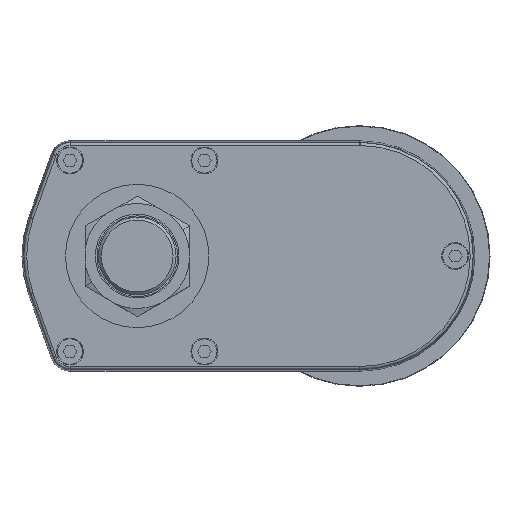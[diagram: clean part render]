
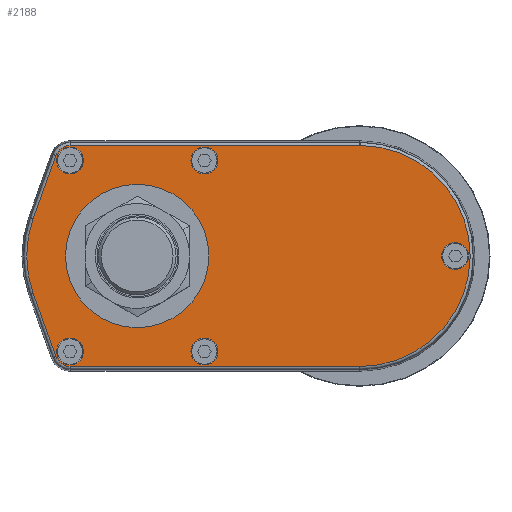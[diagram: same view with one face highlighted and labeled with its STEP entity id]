
A CAD part, left-side view. The second image highlights one B-rep face of the part: STEP entity #2188.
In plain terms, the highlighted planar face has unit normal (-1, 0, 0).
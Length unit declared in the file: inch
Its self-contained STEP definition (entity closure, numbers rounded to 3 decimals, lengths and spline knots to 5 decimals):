
#2188=ADVANCED_FACE('',(#4829,#4830,#4831,#4832,#4833,#4834,#4835),#4836,.F.);
#4829=FACE_OUTER_BOUND('',#10041,.T.);
#4830=FACE_BOUND('',#10042,.T.);
#4831=FACE_BOUND('',#10043,.T.);
#4832=FACE_BOUND('',#10044,.T.);
#4833=FACE_BOUND('',#10045,.T.);
#4834=FACE_BOUND('',#10046,.T.);
#4835=FACE_BOUND('',#10047,.T.);
#4836=PLANE('',#10048);
#10041=EDGE_LOOP('',(#18175,#18176,#18177,#18178,#18179,#18180,#18181,#18182,#18183));
#10042=EDGE_LOOP('',(#18184,#18185));
#10043=EDGE_LOOP('',(#18186,#18187));
#10044=EDGE_LOOP('',(#18188,#18189));
#10045=EDGE_LOOP('',(#18190,#18191));
#10046=EDGE_LOOP('',(#18192,#18193));
#10047=EDGE_LOOP('',(#18194,#18195));
#10048=AXIS2_PLACEMENT_3D('',#18196,#18197,#18198);
#18175=ORIENTED_EDGE('',*,*,#25063,.T.);
#18176=ORIENTED_EDGE('',*,*,#24313,.T.);
#18177=ORIENTED_EDGE('',*,*,#25064,.T.);
#18178=ORIENTED_EDGE('',*,*,#23312,.T.);
#18179=ORIENTED_EDGE('',*,*,#25065,.T.);
#18180=ORIENTED_EDGE('',*,*,#24423,.T.);
#18181=ORIENTED_EDGE('',*,*,#24407,.T.);
#18182=ORIENTED_EDGE('',*,*,#23467,.T.);
#18183=ORIENTED_EDGE('',*,*,#24652,.T.);
#18184=ORIENTED_EDGE('',*,*,#23687,.F.);
#18185=ORIENTED_EDGE('',*,*,#25066,.F.);
#18186=ORIENTED_EDGE('',*,*,#25067,.F.);
#18187=ORIENTED_EDGE('',*,*,#24796,.F.);
#18188=ORIENTED_EDGE('',*,*,#25068,.F.);
#18189=ORIENTED_EDGE('',*,*,#22929,.F.);
#18190=ORIENTED_EDGE('',*,*,#25069,.F.);
#18191=ORIENTED_EDGE('',*,*,#24231,.F.);
#18192=ORIENTED_EDGE('',*,*,#24611,.F.);
#18193=ORIENTED_EDGE('',*,*,#22963,.F.);
#18194=ORIENTED_EDGE('',*,*,#25070,.F.);
#18195=ORIENTED_EDGE('',*,*,#23008,.F.);
#18196=CARTESIAN_POINT('',(-2.27953,0.0,0.0));
#18197=DIRECTION('',(1.0,0.0,0.0));
#18198=DIRECTION('',(0.0,1.0,-0.0));
#22929=EDGE_CURVE('',#26467,#26462,#26469,.T.);
#22963=EDGE_CURVE('',#26527,#26522,#26529,.T.);
#23008=EDGE_CURVE('',#26606,#26601,#26608,.T.);
#23312=EDGE_CURVE('',#27143,#27148,#27150,.T.);
#23467=EDGE_CURVE('',#27405,#27410,#27412,.T.);
#23687=EDGE_CURVE('',#27784,#27779,#27786,.T.);
#24231=EDGE_CURVE('',#28658,#28653,#28660,.T.);
#24313=EDGE_CURVE('',#28780,#28785,#28787,.T.);
#24407=EDGE_CURVE('',#28925,#27405,#28928,.T.);
#24423=EDGE_CURVE('',#28949,#28925,#28950,.T.);
#24611=EDGE_CURVE('',#26522,#26527,#29227,.T.);
#24652=EDGE_CURVE('',#27410,#29284,#29286,.T.);
#24796=EDGE_CURVE('',#29488,#29483,#29490,.T.);
#25063=EDGE_CURVE('',#29284,#28780,#29859,.T.);
#25064=EDGE_CURVE('',#28785,#27143,#29860,.T.);
#25065=EDGE_CURVE('',#27148,#28949,#29861,.T.);
#25066=EDGE_CURVE('',#27779,#27784,#29862,.T.);
#25067=EDGE_CURVE('',#29483,#29488,#29863,.T.);
#25068=EDGE_CURVE('',#26462,#26467,#29864,.T.);
#25069=EDGE_CURVE('',#28653,#28658,#29865,.T.);
#25070=EDGE_CURVE('',#26601,#26606,#29866,.T.);
#26462=VERTEX_POINT('',#31503);
#26467=VERTEX_POINT('',#31509);
#26469=CIRCLE('',#31512,0.17717);
#26522=VERTEX_POINT('',#31601);
#26527=VERTEX_POINT('',#31607);
#26529=CIRCLE('',#31610,0.17717);
#26601=VERTEX_POINT('',#31766);
#26606=VERTEX_POINT('',#31772);
#26608=CIRCLE('',#31775,0.17717);
#27143=VERTEX_POINT('',#32601);
#27148=VERTEX_POINT('',#32606);
#27150=CIRCLE('',#32608,0.19753);
#27405=VERTEX_POINT('',#33012);
#27410=VERTEX_POINT('',#33018);
#27412=LINE('',#33020,#33021);
#27779=VERTEX_POINT('',#33675);
#27784=VERTEX_POINT('',#33681);
#27786=CIRCLE('',#33684,0.94488);
#28653=VERTEX_POINT('',#35374);
#28658=VERTEX_POINT('',#35380);
#28660=CIRCLE('',#35383,0.17717);
#28780=VERTEX_POINT('',#35532);
#28785=VERTEX_POINT('',#35537);
#28787=CIRCLE('',#35539,1.45737);
#28925=VERTEX_POINT('',#35800);
#28928=CIRCLE('',#35803,1.45737);
#28949=VERTEX_POINT('',#35827);
#28950=CIRCLE('',#35828,1.45737);
#29227=CIRCLE('',#36452,0.17717);
#29284=VERTEX_POINT('',#36543);
#29286=CIRCLE('',#36545,0.19753);
#29483=VERTEX_POINT('',#36868);
#29488=VERTEX_POINT('',#36874);
#29490=CIRCLE('',#36877,0.17717);
#29859=LINE('',#37570,#37571);
#29860=LINE('',#37572,#37573);
#29861=LINE('',#37574,#37575);
#29862=CIRCLE('',#37576,0.94488);
#29863=CIRCLE('',#37577,0.17717);
#29864=CIRCLE('',#37578,0.17717);
#29865=CIRCLE('',#37579,0.17717);
#29866=CIRCLE('',#37580,0.17717);
#31503=CARTESIAN_POINT('',(-2.27953,-0.88583,1.08268));
#31509=CARTESIAN_POINT('',(-2.27953,-0.88583,1.43701));
#31512=AXIS2_PLACEMENT_3D('',#40126,#40127,#40128);
#31601=CARTESIAN_POINT('',(-2.27953,0.88583,-1.43701));
#31607=CARTESIAN_POINT('',(-2.27953,0.88583,-1.08268));
#31610=AXIS2_PLACEMENT_3D('',#40167,#40168,#40169);
#31766=CARTESIAN_POINT('',(-2.27953,-4.19291,-0.17717));
#31772=CARTESIAN_POINT('',(-2.27953,-4.19291,0.17717));
#31775=AXIS2_PLACEMENT_3D('',#40215,#40216,#40217);
#32601=CARTESIAN_POINT('',(-2.27953,1.07171,-1.32668));
#32606=CARTESIAN_POINT('',(-2.27953,0.88583,-1.45737));
#32608=AXIS2_PLACEMENT_3D('',#40600,#40601,#40602);
#33012=CARTESIAN_POINT('',(-2.27953,-2.93307,1.45737));
#33018=CARTESIAN_POINT('',(-2.27953,0.88583,1.45737));
#33020=CARTESIAN_POINT('',(-2.27953,-2.93307,1.45737));
#33021=VECTOR('',#40804,3.8189);
#33675=CARTESIAN_POINT('',(-2.27953,0.0,0.94488));
#33681=CARTESIAN_POINT('',(-2.27953,0.0,-0.94488));
#33684=AXIS2_PLACEMENT_3D('',#41131,#41132,#41133);
#35374=CARTESIAN_POINT('',(-2.27953,-0.88583,-1.43701));
#35380=CARTESIAN_POINT('',(-2.27953,-0.88583,-1.08268));
#35383=AXIS2_PLACEMENT_3D('',#41753,#41754,#41755);
#35532=CARTESIAN_POINT('',(-2.27953,1.37142,0.49309));
#35537=CARTESIAN_POINT('',(-2.27953,1.37142,-0.49309));
#35539=AXIS2_PLACEMENT_3D('',#41881,#41882,#41883);
#35800=CARTESIAN_POINT('',(-2.27953,-2.94857,1.45729));
#35803=AXIS2_PLACEMENT_3D('',#41994,#41995,#41996);
#35827=CARTESIAN_POINT('',(-2.27953,-2.93307,-1.45737));
#35828=AXIS2_PLACEMENT_3D('',#42018,#42019,#42020);
#36452=AXIS2_PLACEMENT_3D('',#42210,#42211,#42212);
#36543=CARTESIAN_POINT('',(-2.27953,1.07171,1.32668));
#36545=AXIS2_PLACEMENT_3D('',#42260,#42261,#42262);
#36868=CARTESIAN_POINT('',(-2.27953,0.88583,1.08268));
#36874=CARTESIAN_POINT('',(-2.27953,0.88583,1.43701));
#36877=AXIS2_PLACEMENT_3D('',#42456,#42457,#42458);
#37570=CARTESIAN_POINT('',(-2.27953,1.07171,1.32668));
#37571=VECTOR('',#42754,0.88583);
#37572=CARTESIAN_POINT('',(-2.27953,1.37142,-0.49309));
#37573=VECTOR('',#42755,0.88583);
#37574=CARTESIAN_POINT('',(-2.27953,0.88583,-1.45737));
#37575=VECTOR('',#42756,3.8189);
#37576=AXIS2_PLACEMENT_3D('',#42757,#42758,#42759);
#37577=AXIS2_PLACEMENT_3D('',#42760,#42761,#42762);
#37578=AXIS2_PLACEMENT_3D('',#42763,#42764,#42765);
#37579=AXIS2_PLACEMENT_3D('',#42766,#42767,#42768);
#37580=AXIS2_PLACEMENT_3D('',#42769,#42770,#42771);
#40126=CARTESIAN_POINT('',(-2.27953,-0.88583,1.25984));
#40127=DIRECTION('',(-1.0,0.0,0.0));
#40128=DIRECTION('',(0.0,0.0,1.0));
#40167=CARTESIAN_POINT('',(-2.27953,0.88583,-1.25984));
#40168=DIRECTION('',(-1.0,0.0,0.0));
#40169=DIRECTION('',(0.0,0.0,1.0));
#40215=CARTESIAN_POINT('',(-2.27953,-4.19291,0.0));
#40216=DIRECTION('',(-1.0,0.0,0.0));
#40217=DIRECTION('',(0.0,0.0,1.0));
#40600=CARTESIAN_POINT('',(-2.27953,0.88583,-1.25984));
#40601=DIRECTION('',(-1.0,0.0,0.0));
#40602=DIRECTION('',(0.0,0.941,-0.338));
#40804=DIRECTION('',(0.0,1.0,0.0));
#41131=CARTESIAN_POINT('',(-2.27953,0.0,0.0));
#41132=DIRECTION('',(-1.0,0.0,0.0));
#41133=DIRECTION('',(0.0,0.0,-1.0));
#41753=CARTESIAN_POINT('',(-2.27953,-0.88583,-1.25984));
#41754=DIRECTION('',(-1.0,0.0,0.0));
#41755=DIRECTION('',(0.0,0.0,1.0));
#41881=CARTESIAN_POINT('',(-2.27953,0.0,0.0));
#41882=DIRECTION('',(-1.0,0.0,0.0));
#41883=DIRECTION('',(0.0,0.941,0.338));
#41994=CARTESIAN_POINT('',(-2.27953,-2.93307,0.0));
#41995=DIRECTION('',(-1.0,0.0,0.0));
#41996=DIRECTION('',(0.0,0.0,-1.0));
#42018=CARTESIAN_POINT('',(-2.27953,-2.93307,0.0));
#42019=DIRECTION('',(-1.0,0.0,0.0));
#42020=DIRECTION('',(0.0,0.0,-1.0));
#42210=CARTESIAN_POINT('',(-2.27953,0.88583,-1.25984));
#42211=DIRECTION('',(-1.0,0.0,0.0));
#42212=DIRECTION('',(0.0,0.0,-1.0));
#42260=CARTESIAN_POINT('',(-2.27953,0.88583,1.25984));
#42261=DIRECTION('',(-1.0,0.0,0.0));
#42262=DIRECTION('',(0.0,0.0,1.0));
#42456=CARTESIAN_POINT('',(-2.27953,0.88583,1.25984));
#42457=DIRECTION('',(-1.0,0.0,0.0));
#42458=DIRECTION('',(0.0,0.0,1.0));
#42754=DIRECTION('',(0.0,0.338,-0.941));
#42755=DIRECTION('',(0.0,-0.338,-0.941));
#42756=DIRECTION('',(0.0,-1.0,0.0));
#42757=CARTESIAN_POINT('',(-2.27953,0.0,0.0));
#42758=DIRECTION('',(-1.0,0.0,0.0));
#42759=DIRECTION('',(0.0,0.0,1.0));
#42760=CARTESIAN_POINT('',(-2.27953,0.88583,1.25984));
#42761=DIRECTION('',(-1.0,0.0,0.0));
#42762=DIRECTION('',(0.0,0.0,-1.0));
#42763=CARTESIAN_POINT('',(-2.27953,-0.88583,1.25984));
#42764=DIRECTION('',(-1.0,0.0,0.0));
#42765=DIRECTION('',(0.0,0.0,-1.0));
#42766=CARTESIAN_POINT('',(-2.27953,-0.88583,-1.25984));
#42767=DIRECTION('',(-1.0,0.0,0.0));
#42768=DIRECTION('',(0.0,0.0,-1.0));
#42769=CARTESIAN_POINT('',(-2.27953,-4.19291,0.0));
#42770=DIRECTION('',(-1.0,0.0,0.0));
#42771=DIRECTION('',(0.0,0.0,-1.0));
